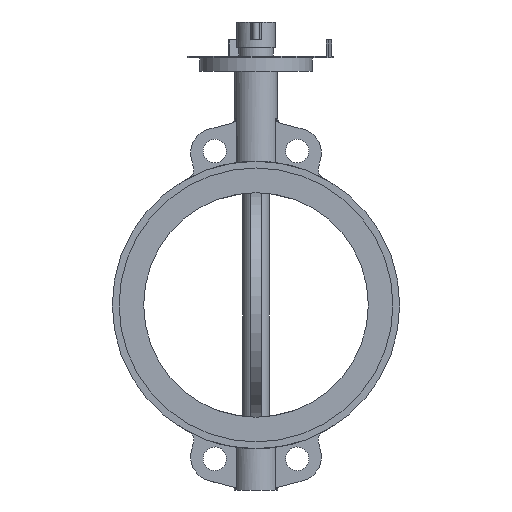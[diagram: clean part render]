
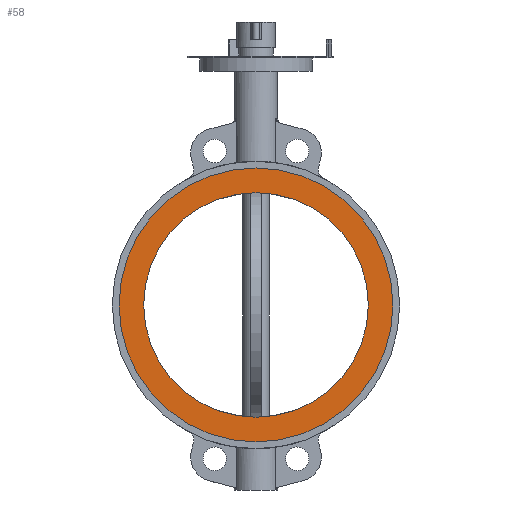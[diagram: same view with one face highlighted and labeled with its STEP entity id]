
A CAD part, left-side view. The second image highlights one B-rep face of the part: STEP entity #58.
In plain terms, the highlighted planar face has unit normal (-1, 0, 0).
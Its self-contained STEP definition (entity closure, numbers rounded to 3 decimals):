
#58=ADVANCED_FACE('',(#7096,#7098),#7100,.F.);
#7096=FACE_BOUND('',#7097,.T.);
#7097=EDGE_LOOP('',(#13104));
#7098=FACE_BOUND('',#7099,.T.);
#7099=EDGE_LOOP('',(#13105));
#7100=PLANE('',#7101);
#7101=AXIS2_PLACEMENT_3D('',#7102,#7103,#7104);
#7102=CARTESIAN_POINT('',(-34.,0.,0.));
#7103=DIRECTION('',(1.,0.,0.));
#7104=DIRECTION('',(0.,1.,0.));
#13104=ORIENTED_EDGE('',*,*,#17635,.T.);
#13105=ORIENTED_EDGE('',*,*,#17636,.T.);
#17635=EDGE_CURVE('',#19932,#19932,#19933,.F.);
#17636=EDGE_CURVE('',#19934,#19934,#19935,.T.);
#19932=VERTEX_POINT('',#23722);
#19933=CIRCLE('',#23723,152.5);
#19934=VERTEX_POINT('',#23727);
#19935=CIRCLE('',#23728,125.);
#23722=CARTESIAN_POINT('',(-34.,152.5,0.));
#23723=AXIS2_PLACEMENT_3D('',#23724,#23725,#23726);
#23724=CARTESIAN_POINT('',(-34.,0.,0.));
#23725=DIRECTION('',(1.,0.,0.));
#23726=DIRECTION('',(0.,1.,0.));
#23727=CARTESIAN_POINT('',(-34.,125.,0.));
#23728=AXIS2_PLACEMENT_3D('',#23729,#23730,#23731);
#23729=CARTESIAN_POINT('',(-34.,0.,0.));
#23730=DIRECTION('',(1.,0.,0.));
#23731=DIRECTION('',(0.,1.,0.));
